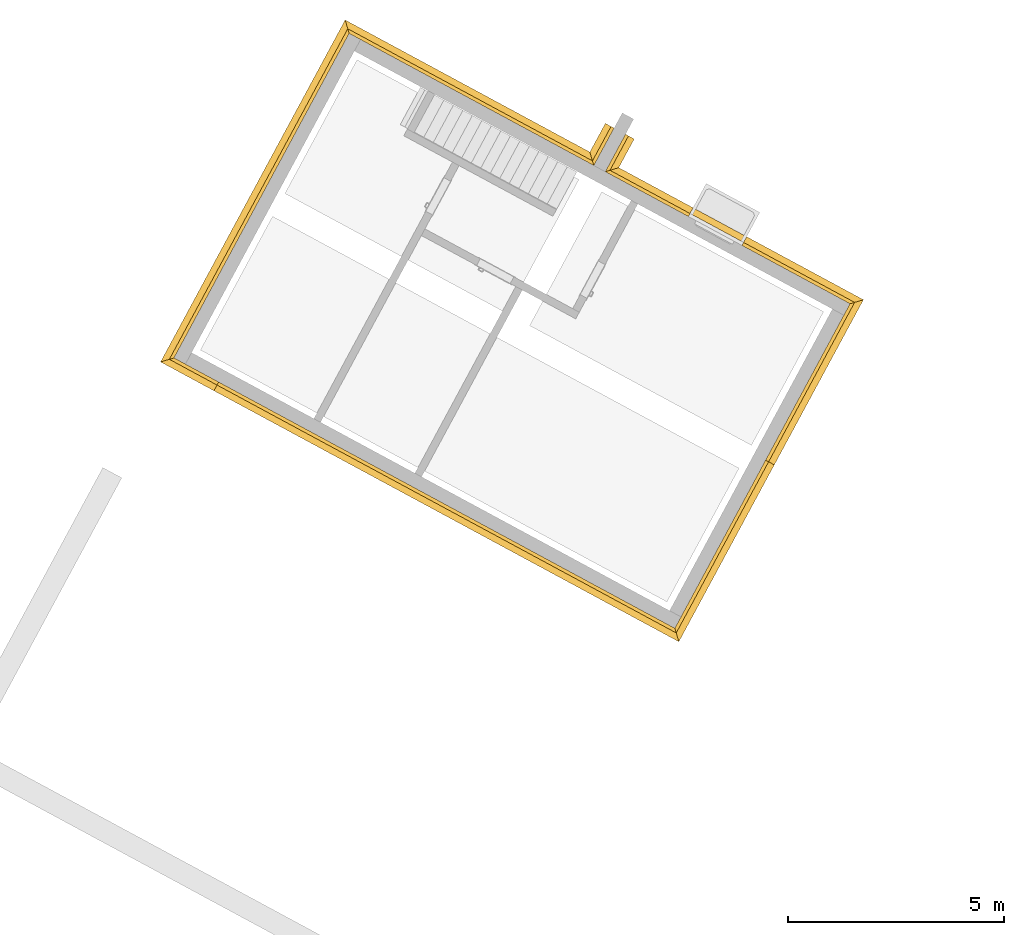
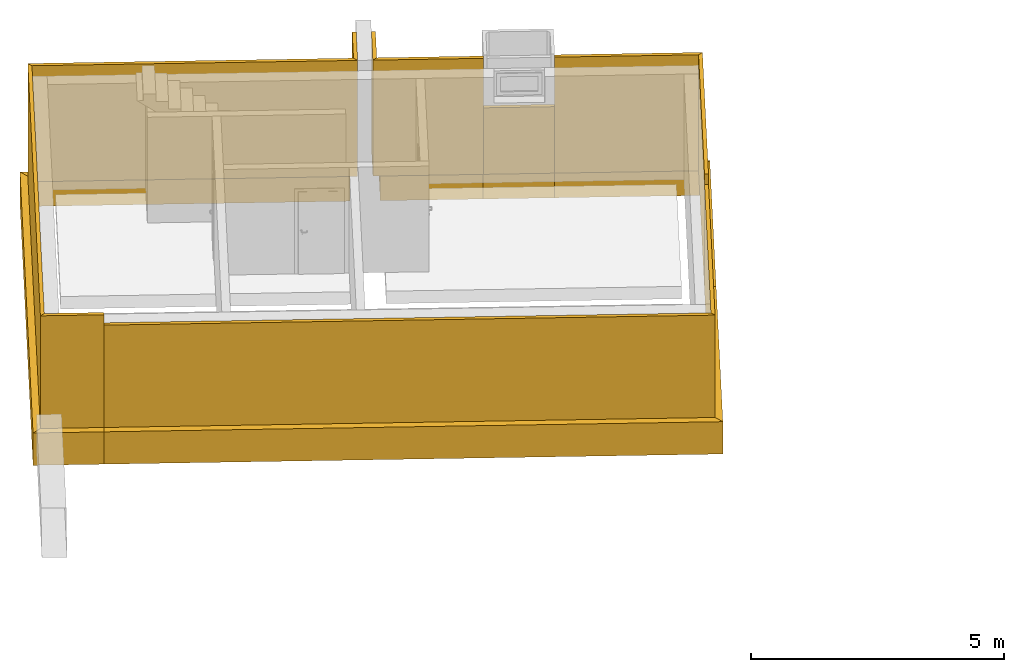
# One storey, part 5 of 7: 11 coverings.
"""IFC2X3 building model written with IfcOpenShell, lengths in metres."""

from ifc_helpers import new_model, entity, si_unit, converted_unit, derived_unit, money_unit, direction, frame, origin_with_axes, place, context, subcontext, project, spatial, faceted_brep, material, material_list, type_object, element, save


model = new_model("IFC2X3")

# Units and contexts
model_context = context("Model", 3, precision=1e-05, world=origin_with_axes(), true_north=direction((0.0, 1.0)))
body_context = subcontext(model_context, "Body", "Model", "MODEL_VIEW")
ifc_project = project(units=[si_unit("LENGTHUNIT", "METRE"), si_unit("AREAUNIT", "SQUARE_METRE"), si_unit("VOLUMEUNIT", "CUBIC_METRE"), converted_unit("PLANEANGLEUNIT", "DEGREE", entity("IfcPlaneAngleMeasure", 0.0174532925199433), si_unit("PLANEANGLEUNIT", "RADIAN"), dimensions=[0, 0, 0, 0, 0, 0, 0]), money_unit("EUR"), converted_unit("TIMEUNIT", "Year", entity("IfcTimeMeasure", 31556926.0), si_unit("TIMEUNIT", "SECOND"), dimensions=[0, 0, 1, 0, 0, 0, 0]), si_unit("MASSUNIT", "GRAM", prefix="KILO"), si_unit("THERMODYNAMICTEMPERATUREUNIT", "DEGREE_CELSIUS"), si_unit("LUMINOUSINTENSITYUNIT", "LUMEN"), si_unit("ENERGYUNIT", "JOULE", prefix="MEGA"), derived_unit("THERMALCONDUCTANCEUNIT", [(si_unit("POWERUNIT", "WATT"), 1), (si_unit("LENGTHUNIT", "METRE"), -1), (si_unit("THERMODYNAMICTEMPERATUREUNIT", "KELVIN"), -1)]), derived_unit("SPECIFICHEATCAPACITYUNIT", [(si_unit("ENERGYUNIT", "JOULE"), 1), (si_unit("MASSUNIT", "GRAM", prefix="KILO"), -1), (si_unit("THERMODYNAMICTEMPERATUREUNIT", "KELVIN"), -1)]), derived_unit("MASSDENSITYUNIT", [(si_unit("MASSUNIT", "GRAM", prefix="KILO"), 1), (si_unit("VOLUMEUNIT", "CUBIC_METRE"), -1)])], contexts=[model_context])

# Site, building, storey
site_placement = place(None, frame((-3.949935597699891, 1.740105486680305, 0.0), z_axis=(0.0, 0.0, 1.0), x_axis=(0.8799804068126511, -0.475009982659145, 0.0)))
site = spatial("IfcSite", under=ifc_project, at=site_placement, Name="Gelände", CompositionType="ELEMENT")
building_placement = place(site_placement, origin_with_axes())
building = spatial("IfcBuilding", under=site, at=building_placement, Name="Gebäude", CompositionType="ELEMENT")
storey_placement = place(building_placement, frame((0.0, 0.0, -2.98), z_axis=(0.0, 0.0, 1.0), x_axis=(1.0, 0.0, 0.0)))
storey = spatial("IfcBuildingStorey", under=building, at=storey_placement, Name="Kellergeschoss", CompositionType="ELEMENT", Elevation=-2.98)

# Coverings
ifc_material = material(Name="_SIWH - Dämmung, Perimeterdämmung")
ifc_material_list = material_list([ifc_material, ifc_material, ifc_material])
covering_type_1 = type_object("IfcCoveringType", Name="_SIWH - Außendämmung Wand KG 230 x 3500", PredefinedType="NOTDEFINED")
covering_1_placement = place(storey_placement, frame((4.182481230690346, 19.2003203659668, 2.98), z_axis=(0.0, 0.0, 1.0), x_axis=(0.0, -1.0, 0.0)))
element("IfcCovering", 1, at=covering_1_placement, inside=storey, type_object=covering_type_1, material=ifc_material_list, Name="Unterzug-015", PredefinedType="NOTDEFINED", context=body_context, shape_type="Brep", body=[
    faceted_brep([(-0.2300000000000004, 6.212524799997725, -2.979999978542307), (-0.2300000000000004, -0.2300018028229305, -2.979999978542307), (-0.1500000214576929, -0.1500013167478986, -2.980000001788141), (-0.1500000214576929, 6.292524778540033, -2.980000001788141), (-0.2300000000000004, 6.212524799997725, -3.68), (-0.2300000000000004, -0.2300018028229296, -3.68), (-0.1500000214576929, -0.1500013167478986, -3.68), (-0.1500000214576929, 6.292524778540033, -3.68)], [[[0, 1, 2, 3]], [[4, 5, 1, 0]], [[1, 5, 6, 2]], [[3, 2, 6, 7]], [[7, 4, 0, 3]], [[7, 6, 5, 4]]]),
    faceted_brep([(-0.08000001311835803, -0.08000086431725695, -0.1800000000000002), (-0.08000001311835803, 6.362524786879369, -0.1800000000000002), (-0.08000001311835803, 6.362524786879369, -2.90000003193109), (-0.08000001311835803, -0.08000086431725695, -2.90000003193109), (1.60453730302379e-08, -3.276204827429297e-07, -0.1800000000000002), (1.60453730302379e-08, 6.442524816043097, -0.1800000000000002), (1.60453730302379e-08, 6.442524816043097, -2.8999999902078), (1.60453730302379e-08, -3.276204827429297e-07, -2.8999999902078)], [[[0, 1, 2, 3]], [[4, 5, 1, 0]], [[2, 1, 5, 6]], [[3, 2, 6, 7]], [[4, 0, 3, 7]], [[7, 6, 5, 4]]]),
    faceted_brep([(9.300087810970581e-09, -3.343658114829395e-07, -2.979999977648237), (9.300087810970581e-09, 6.442524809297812, -2.979999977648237), (9.300087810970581e-09, 6.442524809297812, -2.9), (9.300087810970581e-09, -3.343658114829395e-07, -2.9), (-0.1500000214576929, -0.1500013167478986, -2.980000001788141), (-0.1500000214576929, 6.292524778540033, -2.980000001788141), (-0.2300000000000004, 6.212524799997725, -2.979999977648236), (-0.2300000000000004, 6.212524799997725, -2.899999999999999), (-0.08000001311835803, 6.362524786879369, -2.90000003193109), (-0.08000001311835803, -0.08000086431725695, -2.90000003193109), (-0.2300000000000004, -0.2300018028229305, -2.899999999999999), (-0.2300000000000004, -0.2300018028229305, -2.979999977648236)], [[[0, 1, 2, 3]], [[4, 5, 1, 0]], [[5, 6, 7, 8, 2, 1]], [[3, 2, 8, 9]], [[3, 9, 10, 11, 4, 0]], [[11, 6, 5, 4]], [[10, 7, 6, 11]], [[9, 8, 7, 10]]]),
])
covering_2_placement = place(storey_placement, frame((17.36747827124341, 19.2003203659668, 2.98), z_axis=(0.0, 0.0, 1.0), x_axis=(-0.9999999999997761, -6.693305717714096e-07, 0.0)))
element("IfcCovering", 2, at=covering_2_placement, inside=storey, type_object=covering_type_1, material=ifc_material_list, Name="Unterzug-015", PredefinedType="NOTDEFINED", context=body_context, shape_type="Brep", body=[
    faceted_brep([(-0.2300000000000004, 4.117274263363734, -2.979999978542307), (-0.230000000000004, -0.2299998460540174, -2.979999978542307), (-0.1500000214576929, -0.1499999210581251, -2.980000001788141), (-0.1500000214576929, 4.117274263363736, -2.980000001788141), (-0.2300000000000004, 4.117274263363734, -3.68), (-0.230000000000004, -0.2299998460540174, -3.68), (-0.1500000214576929, -0.1499999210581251, -3.68), (-0.1500000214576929, 4.117274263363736, -3.68)], [[[0, 1, 2, 3]], [[4, 5, 1, 0]], [[1, 5, 6, 2]], [[3, 2, 6, 7]], [[7, 4, 0, 3]], [[7, 6, 5, 4]]]),
    faceted_brep([(-0.08000001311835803, -0.07999995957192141, -2.90000003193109), (-0.08000001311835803, -0.07999995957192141, -0.1800000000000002), (-0.08000001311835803, 4.117274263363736, -0.1800000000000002), (-0.08000001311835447, 4.117274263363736, -2.90000003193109), (1.60453730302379e-08, 1.604536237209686e-08, -2.8999999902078), (1.60453730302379e-08, 1.604536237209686e-08, -0.1800000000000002), (1.60453730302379e-08, 4.117274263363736, -0.1800000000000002), (1.60453730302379e-08, 4.117274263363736, -2.8999999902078)], [[[0, 1, 2, 3]], [[4, 5, 1, 0]], [[1, 5, 6, 2]], [[7, 3, 2, 6]], [[4, 0, 3, 7]], [[5, 4, 7, 6]]]),
    faceted_brep([(9.300087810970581e-09, 4.117274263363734, -2.9), (9.300087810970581e-09, 9.300080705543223e-09, -2.9), (9.300087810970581e-09, 9.300080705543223e-09, -2.979999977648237), (9.300087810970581e-09, 4.117274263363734, -2.979999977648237), (-0.08000001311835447, 4.117274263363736, -2.90000003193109), (-0.08000001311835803, -0.07999995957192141, -2.90000003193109), (-0.230000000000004, -0.2299998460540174, -2.899999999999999), (-0.230000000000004, -0.2299998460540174, -2.979999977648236), (-0.1500000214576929, -0.1499999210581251, -2.980000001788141), (-0.1500000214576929, 4.117274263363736, -2.980000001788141), (-0.2300000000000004, 4.117274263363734, -2.899999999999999), (-0.2300000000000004, 4.117274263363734, -2.979999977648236)], [[[0, 1, 2, 3]], [[4, 5, 1, 0]], [[6, 7, 8, 2, 1, 5]], [[3, 2, 8, 9]], [[10, 4, 0, 3, 9, 11]], [[10, 6, 5, 4]], [[11, 7, 6, 10]], [[9, 8, 7, 11]]]),
])
covering_3_placement = place(storey_placement, frame((4.182535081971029, 10.65780061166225, 2.98), z_axis=(0.0, 0.0, 1.0), x_axis=(0.9999999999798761, 6.344140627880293e-06, 0.0)))
element("IfcCovering", 3, at=covering_3_placement, inside=storey, type_object=covering_type_1, material=ifc_material_list, Name="Unterzug-017", PredefinedType="NOTDEFINED", context=body_context, shape_type="Brep", body=[
    faceted_brep([(-0.1500000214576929, 8.6925207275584, -2.980000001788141), (-0.2300000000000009, 8.772521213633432, -2.979999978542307), (-0.23, -0.2299985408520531, -2.979999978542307), (-0.1500000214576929, -0.1499990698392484, -2.980000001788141), (-0.1500000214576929, 8.6925207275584, -3.68), (-0.2300000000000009, 8.772521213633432, -3.68), (-0.23, -0.2299985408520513, -3.68), (-0.1500000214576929, -0.1499990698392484, -3.68)], [[[0, 1, 2, 3]], [[0, 4, 5, 1]], [[1, 5, 6, 2]], [[3, 2, 6, 7]], [[4, 0, 3, 7]], [[5, 4, 7, 6]]]),
    faceted_brep([(-0.08000001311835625, 8.622520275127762, -0.1800000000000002), (-0.08000001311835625, 8.622520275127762, -2.90000003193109), (-0.08000001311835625, -0.07999950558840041, -2.90000003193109), (-0.08000001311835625, -0.07999950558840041, -0.1800000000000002), (1.604537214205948e-08, 8.542519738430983, -0.1800000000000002), (1.604537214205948e-08, 8.542519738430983, -2.8999999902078), (1.604537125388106e-08, 1.604550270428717e-08, -2.8999999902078), (1.604537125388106e-08, 1.604550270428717e-08, -0.1800000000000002)], [[[0, 1, 2, 3]], [[0, 4, 5, 1]], [[1, 5, 6, 2]], [[3, 2, 6, 7]], [[4, 0, 3, 7]], [[5, 4, 7, 6]]]),
    faceted_brep([(9.300086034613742e-09, 9.300260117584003e-09, -2.9), (9.300086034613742e-09, 9.300260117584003e-09, -2.979999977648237), (9.300086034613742e-09, 8.54251974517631, -2.979999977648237), (9.300086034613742e-09, 8.54251974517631, -2.9), (-0.08000001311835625, -0.07999950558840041, -2.90000003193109), (-0.23, -0.2299985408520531, -2.899999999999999), (-0.23, -0.2299985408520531, -2.979999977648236), (-0.1500000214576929, -0.1499990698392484, -2.980000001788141), (-0.1500000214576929, 8.6925207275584, -2.980000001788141), (-0.2300000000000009, 8.772521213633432, -2.979999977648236), (-0.2300000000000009, 8.772521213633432, -2.899999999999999), (-0.08000001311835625, 8.622520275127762, -2.90000003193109)], [[[0, 1, 2, 3]], [[1, 0, 4, 5, 6, 7]], [[1, 7, 8, 2]], [[2, 8, 9, 10, 11, 3]], [[4, 0, 3, 11]], [[5, 4, 11, 10]], [[6, 5, 10, 9]], [[7, 6, 9, 8]]]),
])
covering_4_placement = place(storey_placement, frame((10.62500603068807, 19.2003203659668, 2.98), z_axis=(0.0, 0.0, 1.0), x_axis=(1.0, 0.0, 0.0)))
element("IfcCovering", 4, at=covering_4_placement, inside=storey, type_object=covering_type_1, material=ifc_material_list, Name="Unterzug-015", PredefinedType="NOTDEFINED", context=body_context, shape_type="Brep", body=[
    faceted_brep([(-0.2300000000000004, 0.2300000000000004, -2.979999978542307), (-0.1500000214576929, 0.1500000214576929, -2.980000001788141), (-0.1500000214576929, 0.9849671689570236, -2.980000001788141), (-0.2300000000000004, 0.9849671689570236, -2.979999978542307), (-0.2300000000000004, 0.2300000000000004, -3.68), (-0.1500000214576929, 0.1500000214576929, -3.68), (-0.1500000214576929, 0.9849671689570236, -3.68), (-0.2300000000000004, 0.9849671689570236, -3.68)], [[[0, 1, 2, 3]], [[4, 5, 1, 0]], [[1, 5, 6, 2]], [[7, 3, 2, 6]], [[4, 0, 3, 7]], [[5, 4, 7, 6]]]),
    faceted_brep([(-0.08000001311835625, 0.9849671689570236, -0.1800000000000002), (-0.08000001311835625, 0.9849671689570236, -2.90000003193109), (-0.08000001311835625, 0.08000001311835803, -2.90000003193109), (-0.08000001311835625, 0.08000001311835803, -0.1800000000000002), (1.60453730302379e-08, 0.9849671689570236, -0.1800000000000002), (1.60453730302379e-08, 0.9849671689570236, -2.8999999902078), (1.60453730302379e-08, -1.60453730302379e-08, -2.8999999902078), (1.60453730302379e-08, -1.60453730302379e-08, -0.1800000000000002)], [[[0, 1, 2, 3]], [[0, 4, 5, 1]], [[1, 5, 6, 2]], [[3, 2, 6, 7]], [[4, 0, 3, 7]], [[5, 4, 7, 6]]]),
    faceted_brep([(9.300086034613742e-09, 0.9849671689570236, -2.9), (9.300086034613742e-09, -9.300087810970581e-09, -2.9), (9.300086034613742e-09, -9.300087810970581e-09, -2.979999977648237), (9.300086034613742e-09, 0.9849671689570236, -2.979999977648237), (-0.08000001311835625, 0.9849671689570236, -2.90000003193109), (-0.08000001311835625, 0.08000001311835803, -2.90000003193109), (-0.2300000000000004, 0.2300000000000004, -2.899999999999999), (-0.2300000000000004, 0.2300000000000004, -2.979999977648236), (-0.1500000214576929, 0.1500000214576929, -2.980000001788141), (-0.1500000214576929, 0.9849671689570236, -2.980000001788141), (-0.2300000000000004, 0.9849671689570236, -2.899999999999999), (-0.2300000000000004, 0.9849671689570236, -2.979999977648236)], [[[0, 1, 2, 3]], [[4, 5, 1, 0]], [[6, 7, 8, 2, 1, 5]], [[3, 2, 8, 9]], [[10, 4, 0, 3, 9, 11]], [[10, 6, 5, 4]], [[11, 7, 6, 10]], [[9, 8, 7, 11]]]),
])
covering_5_placement = place(storey_placement, frame((10.92500603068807, 20.18528753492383, 2.98), z_axis=(0.0, 0.0, 1.0), x_axis=(-1.0, 0.0, 0.0)))
element("IfcCovering", 5, at=covering_5_placement, inside=storey, type_object=covering_type_1, material=ifc_material_list, Name="Unterzug-017", PredefinedType="NOTDEFINED", context=body_context, shape_type="Brep", body=[
    faceted_brep([(-0.2300000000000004, 0.0, -2.979999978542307), (-0.1500000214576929, 0.0, -2.980000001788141), (-0.1500000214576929, 0.8349671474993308, -2.980000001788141), (-0.2300000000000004, 0.7549671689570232, -2.979999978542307), (-0.2300000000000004, 0.0, -3.68), (-0.1500000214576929, 0.0, -3.68), (-0.1500000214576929, 0.8349671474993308, -3.68), (-0.2300000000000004, 0.7549671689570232, -3.68)], [[[0, 1, 2, 3]], [[4, 5, 1, 0]], [[1, 5, 6, 2]], [[7, 3, 2, 6]], [[4, 0, 3, 7]], [[5, 4, 7, 6]]]),
    faceted_brep([(-0.08000001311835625, 0.9049671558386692, -0.1800000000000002), (-0.08000001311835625, 0.9049671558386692, -2.90000003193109), (-0.08000001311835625, 0.0, -2.90000003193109), (-0.08000001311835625, 0.0, -0.1800000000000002), (1.60453730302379e-08, 0.9849671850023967, -0.1800000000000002), (1.60453730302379e-08, 0.9849671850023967, -2.8999999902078), (1.60453730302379e-08, 0.0, -2.8999999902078), (1.60453730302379e-08, 0.0, -0.1800000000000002)], [[[0, 1, 2, 3]], [[0, 4, 5, 1]], [[1, 5, 6, 2]], [[3, 2, 6, 7]], [[4, 0, 3, 7]], [[5, 4, 7, 6]]]),
    faceted_brep([(9.300086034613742e-09, 0.9849671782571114, -2.9), (9.300086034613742e-09, 0.0, -2.9), (9.300086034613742e-09, 0.0, -2.979999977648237), (9.300086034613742e-09, 0.9849671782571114, -2.979999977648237), (-0.08000001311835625, 0.9049671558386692, -2.90000003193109), (-0.08000001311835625, 0.0, -2.90000003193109), (-0.2300000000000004, 0.0, -2.899999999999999), (-0.2300000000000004, 0.0, -2.979999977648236), (-0.1500000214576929, 0.0, -2.980000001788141), (-0.1500000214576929, 0.8349671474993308, -2.980000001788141), (-0.2300000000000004, 0.7549671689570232, -2.899999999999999), (-0.2300000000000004, 0.7549671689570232, -2.979999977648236)], [[[0, 1, 2, 3]], [[4, 5, 1, 0]], [[6, 7, 8, 2, 1, 5]], [[3, 2, 8, 9]], [[10, 4, 0, 3, 9, 11]], [[10, 6, 5, 4]], [[11, 7, 6, 10]], [[9, 8, 7, 11]]]),
])
covering_6_placement = place(storey_placement, frame((5.357481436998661, 10.65780061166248, 2.98), z_axis=(0.0, 0.0, 1.0), x_axis=(0.0, 1.0, 0.0)))
element("IfcCovering", 6, at=covering_6_placement, inside=storey, type_object=covering_type_1, material=ifc_material_list, Name="Unterzug-016", PredefinedType="NOTDEFINED", context=body_context, shape_type="Brep", body=[
    faceted_brep([(-0.2300000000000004, 0.0, -2.979999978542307), (-0.1500000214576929, 0.0, -2.980000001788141), (-0.1500000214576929, 1.324945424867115, -2.980000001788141), (-0.2300000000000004, 1.404944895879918, -2.979999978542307), (-0.2300000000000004, 0.0, -3.68), (-0.1500000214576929, 0.0, -3.68), (-0.1500000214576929, 1.324945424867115, -3.68), (-0.2300000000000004, 1.404944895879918, -3.68)], [[[0, 1, 2, 3]], [[4, 5, 1, 0]], [[1, 5, 6, 2]], [[7, 3, 2, 6]], [[4, 0, 3, 7]], [[5, 4, 7, 6]]]),
    faceted_brep([(-0.08000001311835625, 0.0, -0.1800000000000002), (-0.08000001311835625, 1.254945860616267, -0.1800000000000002), (-0.08000001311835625, 1.254945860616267, -2.90000003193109), (-0.08000001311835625, 0.0, -2.90000003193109), (1.60453730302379e-08, 0.0, -0.1800000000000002), (1.60453730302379e-08, 1.174946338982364, -0.1800000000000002), (1.60453730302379e-08, 1.174946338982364, -2.8999999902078), (1.60453730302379e-08, 0.0, -2.8999999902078)], [[[0, 1, 2, 3]], [[4, 5, 1, 0]], [[2, 1, 5, 6]], [[3, 2, 6, 7]], [[4, 0, 3, 7]], [[7, 6, 5, 4]]]),
    faceted_brep([(9.300086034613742e-09, 1.174946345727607, -2.9), (9.300086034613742e-09, 0.0, -2.9), (9.300086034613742e-09, 0.0, -2.979999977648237), (9.300086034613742e-09, 1.174946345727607, -2.979999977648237), (-0.08000001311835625, 1.254945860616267, -2.90000003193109), (-0.08000001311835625, 0.0, -2.90000003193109), (-0.2300000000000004, 0.0, -2.899999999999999), (-0.2300000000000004, 0.0, -2.979999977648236), (-0.1500000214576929, 0.0, -2.980000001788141), (-0.1500000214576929, 1.324945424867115, -2.980000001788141), (-0.2300000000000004, 1.404944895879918, -2.899999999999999), (-0.2300000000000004, 1.404944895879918, -2.979999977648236)], [[[0, 1, 2, 3]], [[4, 5, 1, 0]], [[6, 7, 8, 2, 1, 5]], [[3, 2, 8, 9]], [[10, 4, 0, 3, 9, 11]], [[10, 6, 5, 4]], [[11, 7, 6, 10]], [[9, 8, 7, 11]]]),
])
covering_7_placement = place(storey_placement, frame((14.52247696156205, 19.2003203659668, 2.98), z_axis=(0.0, 0.0, 1.0), x_axis=(0.0, -1.0, 0.0)))
element("IfcCovering", 7, at=covering_7_placement, inside=storey, type_object=covering_type_1, material=ifc_material_list, Name="Unterzug-015", PredefinedType="NOTDEFINED", context=body_context, shape_type="Brep", body=[
    faceted_brep([(-0.2300000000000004, 0.0, -2.979999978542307), (-0.1500000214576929, 0.0, -2.980000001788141), (-0.1500000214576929, 2.995001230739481, -2.980000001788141), (-0.2300000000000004, 3.075001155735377, -2.979999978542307), (-0.2300000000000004, 0.0, -3.68), (-0.1500000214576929, 0.0, -3.68), (-0.1500000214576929, 2.995001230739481, -3.68), (-0.2300000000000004, 3.075001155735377, -3.68)], [[[0, 1, 2, 3]], [[4, 5, 1, 0]], [[1, 5, 6, 2]], [[7, 3, 2, 6]], [[4, 0, 3, 7]], [[5, 4, 7, 6]]]),
    faceted_brep([(-0.08000001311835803, 2.925001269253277, -0.1800000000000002), (-0.08000001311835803, 2.925001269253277, -2.90000003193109), (-0.08000001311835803, 0.0, -2.90000003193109), (-0.08000001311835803, 0.0, -0.1800000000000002), (1.60453730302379e-08, 2.845001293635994, -0.1800000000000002), (1.60453730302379e-08, 2.845001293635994, -2.8999999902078), (1.60453730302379e-08, 0.0, -2.8999999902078), (1.60453730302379e-08, 0.0, -0.1800000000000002)], [[[0, 1, 2, 3]], [[0, 4, 5, 1]], [[1, 5, 6, 2]], [[3, 2, 6, 7]], [[4, 0, 3, 7]], [[5, 4, 7, 6]]]),
    faceted_brep([(9.300087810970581e-09, 2.845001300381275, -2.9), (9.300087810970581e-09, 0.0, -2.9), (9.300087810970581e-09, 0.0, -2.979999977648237), (9.300087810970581e-09, 2.845001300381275, -2.979999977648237), (-0.08000001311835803, 2.925001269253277, -2.90000003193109), (-0.08000001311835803, 0.0, -2.90000003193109), (-0.2300000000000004, 0.0, -2.899999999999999), (-0.2300000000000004, 0.0, -2.979999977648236), (-0.1500000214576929, 0.0, -2.980000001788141), (-0.1500000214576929, 2.995001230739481, -2.980000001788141), (-0.2300000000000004, 3.075001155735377, -2.899999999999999), (-0.2300000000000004, 3.075001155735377, -2.979999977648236)], [[[0, 1, 2, 3]], [[4, 5, 1, 0]], [[6, 7, 8, 2, 1, 5]], [[3, 2, 8, 9]], [[10, 4, 0, 3, 9, 11]], [[10, 6, 5, 4]], [[11, 7, 6, 10]], [[9, 8, 7, 11]]]),
])
covering_8_placement = place(storey_placement, frame((10.92500603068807, 19.2003203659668, 2.98), z_axis=(0.0, 0.0, 1.0), x_axis=(0.0, -1.0, 0.0)))
element("IfcCovering", 8, at=covering_8_placement, inside=storey, type_object=covering_type_1, material=ifc_material_list, Name="Unterzug-015", PredefinedType="NOTDEFINED", context=body_context, shape_type="Brep", body=[
    faceted_brep([(-0.2300000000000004, 0.2299999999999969, -2.979999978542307), (-0.1500000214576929, 0.1500000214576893, -2.980000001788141), (-0.1500000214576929, 2.187467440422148, -2.980000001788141), (-0.2300000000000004, 2.187467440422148, -2.979999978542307), (-0.2300000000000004, 0.2299999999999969, -3.68), (-0.1500000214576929, 0.1500000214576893, -3.68), (-0.1500000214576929, 2.187467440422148, -3.68), (-0.2300000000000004, 2.187467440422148, -3.68)], [[[0, 1, 2, 3]], [[4, 5, 1, 0]], [[1, 5, 6, 2]], [[7, 3, 2, 6]], [[4, 0, 3, 7]], [[5, 4, 7, 6]]]),
    faceted_brep([(-0.08000001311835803, 2.187467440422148, -0.1800000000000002), (-0.08000001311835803, 2.187467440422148, -2.90000003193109), (-0.08000001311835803, 0.0800000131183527, -2.90000003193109), (-0.08000001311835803, 0.0800000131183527, -0.1800000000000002), (1.60453730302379e-08, 2.187467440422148, -0.1800000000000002), (1.60453730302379e-08, 2.187467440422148, -2.8999999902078), (1.60453730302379e-08, -1.604537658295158e-08, -2.8999999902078), (1.60453730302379e-08, -1.604537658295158e-08, -0.1800000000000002)], [[[0, 1, 2, 3]], [[0, 4, 5, 1]], [[1, 5, 6, 2]], [[3, 2, 6, 7]], [[4, 0, 3, 7]], [[5, 4, 7, 6]]]),
    faceted_brep([(9.300087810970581e-09, 2.187467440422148, -2.9), (9.300087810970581e-09, -9.30008958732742e-09, -2.9), (9.300087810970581e-09, -9.30008958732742e-09, -2.979999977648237), (9.300087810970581e-09, 2.187467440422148, -2.979999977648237), (-0.08000001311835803, 2.187467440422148, -2.90000003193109), (-0.08000001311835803, 0.0800000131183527, -2.90000003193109), (-0.2300000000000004, 0.2299999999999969, -2.899999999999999), (-0.2300000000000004, 0.2299999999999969, -2.979999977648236), (-0.1500000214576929, 0.1500000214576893, -2.980000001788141), (-0.1500000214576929, 2.187467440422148, -2.980000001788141), (-0.2300000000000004, 2.187467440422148, -2.899999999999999), (-0.2300000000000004, 2.187467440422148, -2.979999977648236)], [[[0, 1, 2, 3]], [[4, 5, 1, 0]], [[6, 7, 8, 2, 1, 5]], [[3, 2, 8, 9]], [[10, 4, 0, 3, 9, 11]], [[10, 6, 5, 4]], [[11, 7, 6, 10]], [[9, 8, 7, 11]]]),
])
covering_type_2 = type_object("IfcCoveringType", Name="_SIWH - Außendämmung Wand KG 230 x 3250", PredefinedType="NOTDEFINED")
covering_9_placement = place(storey_placement, frame((17.36748398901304, 10.65780061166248, 2.98), z_axis=(0.0, 0.0, 1.0), x_axis=(0.0, 1.0, 0.0)))
element("IfcCovering", 9, at=covering_9_placement, inside=storey, type_object=covering_type_2, material=ifc_material_list, Name="Unterzug-016", PredefinedType="NOTDEFINED", context=body_context, shape_type="Brep", body=[
    faceted_brep([(-0.2300000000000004, -0.2300001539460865, -2.979999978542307), (-0.1500000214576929, -0.1500001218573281, -2.980000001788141), (-0.1500000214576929, 12.01000255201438, -2.980000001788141), (-0.2299999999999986, 12.01000255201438, -2.979999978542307), (-0.2300000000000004, -0.2300001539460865, -3.68), (-0.1500000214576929, -0.1500001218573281, -3.68), (-0.1500000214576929, 12.01000255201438, -3.68), (-0.2299999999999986, 12.01000255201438, -3.68)], [[[0, 1, 2, 3]], [[4, 5, 1, 0]], [[1, 5, 6, 2]], [[7, 3, 2, 6]], [[4, 0, 3, 7]], [[5, 4, 7, 6]]]),
    faceted_brep([(-0.0800000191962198, -0.0800000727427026, -0.4300000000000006), (-0.0800000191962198, 12.01000255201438, -0.4300000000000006), (-0.0800000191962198, 12.01000255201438, -2.900000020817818), (-0.0800000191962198, -0.08000007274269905, -2.900000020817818), (1.363019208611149e-08, 1.363019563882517e-08, -0.4300000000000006), (1.363019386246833e-08, 12.01000255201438, -0.4300000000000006), (1.363019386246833e-08, 12.01000255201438, -2.899999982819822), (1.363019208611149e-08, 1.363019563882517e-08, -2.899999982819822)], [[[0, 1, 2, 3]], [[4, 5, 1, 0]], [[2, 1, 5, 6]], [[3, 2, 6, 7]], [[4, 0, 3, 7]], [[7, 6, 5, 4]]]),
    faceted_brep([(9.300086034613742e-09, 9.300087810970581e-09, -2.9), (9.300086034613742e-09, 9.300087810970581e-09, -2.979999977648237), (9.300087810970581e-09, 12.01000255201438, -2.979999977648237), (9.300087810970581e-09, 12.01000255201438, -2.9), (-0.2300000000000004, -0.2300001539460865, -2.979999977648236), (-0.1500000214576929, -0.1500001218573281, -2.980000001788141), (-0.0800000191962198, -0.08000007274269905, -2.900000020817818), (-0.2300000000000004, -0.2300001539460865, -2.899999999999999), (-0.1500000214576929, 12.01000255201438, -2.980000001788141), (-0.0800000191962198, 12.01000255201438, -2.900000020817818), (-0.2299999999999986, 12.01000255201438, -2.979999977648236), (-0.2300000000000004, 12.01000255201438, -2.899999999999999)], [[[0, 1, 2, 3]], [[4, 5, 1, 0, 6, 7]], [[1, 5, 8, 2]], [[9, 3, 2, 8, 10, 11]], [[6, 0, 3, 9]], [[5, 4, 10, 8]], [[7, 6, 9, 11]], [[4, 7, 11, 10]]]),
])
covering_10_placement = place(storey_placement, frame((17.36748102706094, 15.08304610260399, 2.98), z_axis=(0.0, 0.0, 1.0), x_axis=(-0.9999999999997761, -6.693305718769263e-07, 0.0)))
element("IfcCovering", 10, at=covering_10_placement, inside=storey, type_object=covering_type_2, material=ifc_material_list, Name="Unterzug-015", PredefinedType="NOTDEFINED", context=body_context, shape_type="Brep", body=[
    faceted_brep([(-0.2300000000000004, 4.655245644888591, -2.979999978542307), (-0.2300000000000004, 0.0, -2.979999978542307), (-0.1500000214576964, 0.0, -2.980000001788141), (-0.1500000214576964, 4.575245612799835, -2.980000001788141), (-0.2300000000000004, 4.655245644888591, -3.68), (-0.2300000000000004, 0.0, -3.68), (-0.1500000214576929, 0.0, -3.68), (-0.1500000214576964, 4.575245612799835, -3.68)], [[[0, 1, 2, 3]], [[4, 5, 1, 0]], [[1, 5, 6, 2]], [[3, 2, 6, 7]], [[7, 4, 0, 3]], [[7, 6, 5, 4]]]),
    faceted_brep([(-0.0800000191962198, 0.0, -0.4300000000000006), (-0.0800000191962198, 4.505245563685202, -0.4300000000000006), (-0.08000001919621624, 4.505245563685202, -2.900000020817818), (-0.0800000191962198, 0.0, -2.900000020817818), (1.363019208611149e-08, 0.0, -0.4300000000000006), (1.363019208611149e-08, 4.425245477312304, -0.4300000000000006), (1.363019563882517e-08, 4.425245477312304, -2.899999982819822), (1.363019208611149e-08, 0.0, -2.899999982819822)], [[[0, 1, 2, 3]], [[4, 5, 1, 0]], [[2, 1, 5, 6]], [[3, 2, 6, 7]], [[4, 0, 3, 7]], [[7, 6, 5, 4]]]),
    faceted_brep([(9.300087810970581e-09, 4.425245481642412, -2.9), (9.300087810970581e-09, 0.0, -2.9), (9.300087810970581e-09, 0.0, -2.979999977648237), (9.300087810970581e-09, 4.425245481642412, -2.979999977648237), (-0.08000001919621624, 4.505245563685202, -2.900000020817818), (-0.0800000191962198, 0.0, -2.900000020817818), (-0.2300000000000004, 0.0, -2.899999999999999), (-0.2300000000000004, 0.0, -2.979999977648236), (-0.1500000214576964, 0.0, -2.980000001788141), (-0.1500000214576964, 4.575245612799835, -2.980000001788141), (-0.2300000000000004, 4.655245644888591, -2.899999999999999), (-0.2300000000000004, 4.655245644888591, -2.979999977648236)], [[[0, 1, 2, 3]], [[4, 5, 1, 0]], [[6, 7, 8, 2, 1, 5]], [[3, 2, 8, 9]], [[10, 4, 0, 3, 9, 11]], [[10, 6, 5, 4]], [[11, 7, 6, 10]], [[9, 8, 7, 11]]]),
])
covering_type_3 = type_object("IfcCoveringType", Name="_SIWH - Außendämmung Wand KG 230 x 2305", PredefinedType="NOTDEFINED")
covering_11_placement = place(storey_placement, frame((13.11247347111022, 19.2003203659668, 2.98), z_axis=(0.0, 0.0, 1.0), x_axis=(0.0, -1.0, 0.0)))
element("IfcCovering", 11, at=covering_11_placement, inside=storey, type_object=covering_type_3, material=ifc_material_list, Name="Unterzug-015", PredefinedType="NOTDEFINED", context=body_context, shape_type="Brep", body=[
    faceted_brep([(-0.1500000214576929, 0.0, -2.980000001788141), (-0.1500000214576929, 1.41000349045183, -2.980000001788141), (-0.2300000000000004, 1.41000349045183, -2.979999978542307), (-0.2300000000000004, 0.0, -2.979999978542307), (-0.1500000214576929, 0.0, -3.68), (-0.1500000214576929, 1.41000349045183, -3.68), (-0.2300000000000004, 1.41000349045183, -3.68), (-0.2300000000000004, 0.0, -3.68)], [[[0, 1, 2, 3]], [[4, 5, 1, 0]], [[2, 1, 5, 6]], [[3, 2, 6, 7]], [[4, 0, 3, 7]], [[7, 6, 5, 4]]]),
    faceted_brep([(-0.08000001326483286, 0.0, -1.375), (-0.08000001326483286, 1.41000349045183, -1.375), (-0.08000001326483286, 1.41000349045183, -2.900000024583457), (-0.08000001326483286, 0.0, -2.900000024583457), (1.154910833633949e-08, 0.0, -1.375), (1.154910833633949e-08, 1.41000349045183, -1.375), (1.154910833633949e-08, 1.41000349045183, -2.900000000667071), (1.154910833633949e-08, 0.0, -2.900000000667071)], [[[0, 1, 2, 3]], [[4, 5, 1, 0]], [[2, 1, 5, 6]], [[3, 2, 6, 7]], [[4, 0, 3, 7]], [[7, 6, 5, 4]]]),
    faceted_brep([(9.300087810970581e-09, 0.0, -2.9), (9.300087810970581e-09, 0.0, -2.979999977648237), (9.300087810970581e-09, 1.41000349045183, -2.979999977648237), (9.300087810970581e-09, 1.41000349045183, -2.9), (-0.2300000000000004, 0.0, -2.979999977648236), (-0.1500000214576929, 0.0, -2.980000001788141), (-0.08000001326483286, 0.0, -2.900000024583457), (-0.2300000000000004, 0.0, -2.899999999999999), (-0.1500000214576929, 1.41000349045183, -2.980000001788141), (-0.08000001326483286, 1.41000349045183, -2.900000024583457), (-0.2300000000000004, 1.41000349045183, -2.979999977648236), (-0.2300000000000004, 1.41000349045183, -2.899999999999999)], [[[0, 1, 2, 3]], [[4, 5, 1, 0, 6, 7]], [[1, 5, 8, 2]], [[9, 3, 2, 8, 10, 11]], [[6, 0, 3, 9]], [[5, 4, 10, 8]], [[7, 6, 9, 11]], [[4, 7, 11, 10]]]),
])

save(model, "model.ifc")
